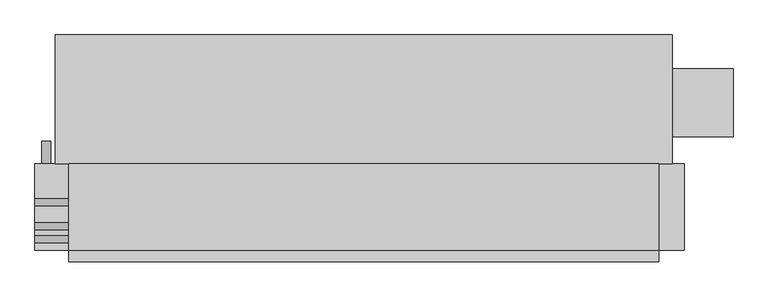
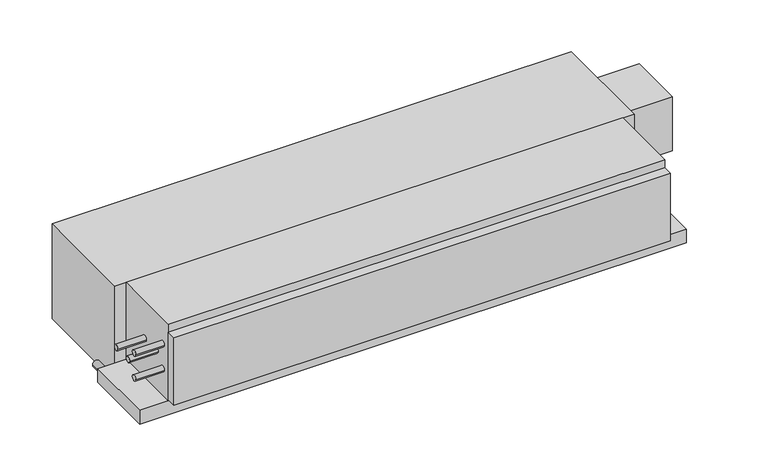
"""IFC4 building model written with IfcOpenShell, lengths in millimetres: proxy geometry, Concealed_Horizontal_Fan_Coil_Unit_With_Plenum_-_42CEA_-_CARRIER_-_4-Pipe_LH_2022 : Size 10 - 277v/60Hz/1Ph - 4/1 Coil."""

from ifc_helpers import new_model, si_unit, point, frame, frame_2d, origin, place, context, project, spatial, polyline, circle_curve, trimmed, segment, composite_curve, outline, extrude, source, transform, mapped, element, save


def mechanical_equipment_5f8825c9(model_context):
    return source(origin(), model_context, "Body", "SweptSolid", [
        extrude(outline(composite_curve([segment(trimmed(circle_curve(frame_2d((-241.3, -558.8)), 9.525), [point((-241.3, -568.325))], [point((-241.3, -549.275))], False, "CARTESIAN"), True, "CONTINUOUS"), segment(trimmed(circle_curve(frame_2d((-241.3, -558.8)), 9.525), [point((-241.3, -549.275))], [point((-241.3, -568.325))], False, "CARTESIAN"), True, "CONTINUOUS")], self_intersect=False)), frame((0.0, -141.2875, 0.0), z_axis=(0.0, 1.0, 0.0), x_axis=(0.0, 0.0, 1.0)), (0.0, 0.0, 1.0), 50.8),
        extrude(outline(composite_curve([segment(trimmed(circle_curve(frame_2d((-309.5625, -69.85)), 7.9375), [point((-301.625, -69.85))], [point((-317.5, -69.85))], False, "CARTESIAN"), True, "CONTINUOUS"), segment(trimmed(circle_curve(frame_2d((-309.5625, -69.85)), 7.9375), [point((-317.5, -69.85))], [point((-301.625, -69.85))], False, "CARTESIAN"), True, "CONTINUOUS")], self_intersect=False)), frame((-584.2, 0.0, 0.0), z_axis=(1.0, 0.0, 0.0), x_axis=(0.0, 1.0, 0.0)), (0.0, 0.0, 1.0), 76.2),
        extrude(outline(composite_curve([segment(trimmed(circle_curve(frame_2d((-309.5625, -139.7)), 7.9375), [point((-301.625, -139.7))], [point((-317.5, -139.7))], False, "CARTESIAN"), True, "CONTINUOUS"), segment(trimmed(circle_curve(frame_2d((-309.5625, -139.7)), 7.9375), [point((-317.5, -139.7))], [point((-301.625, -139.7))], False, "CARTESIAN"), True, "CONTINUOUS")], self_intersect=False)), frame((-584.2, 0.0, 0.0), z_axis=(1.0, 0.0, 0.0), x_axis=(0.0, 1.0, 0.0)), (0.0, 0.0, 1.0), 76.2),
        extrude(outline(composite_curve([segment(trimmed(circle_curve(frame_2d((-227.0125, -104.775)), 7.9375), [point((-219.075, -104.775))], [point((-234.95, -104.775))], False, "CARTESIAN"), True, "CONTINUOUS"), segment(trimmed(circle_curve(frame_2d((-227.0125, -104.775)), 7.9375), [point((-234.95, -104.775))], [point((-219.075, -104.775))], False, "CARTESIAN"), True, "CONTINUOUS")], self_intersect=False)), frame((-584.2, 0.0, 0.0), z_axis=(1.0, 0.0, 0.0), x_axis=(0.0, 1.0, 0.0)), (0.0, 0.0, 1.0), 76.2),
        extrude(outline(composite_curve([segment(trimmed(circle_curve(frame_2d((-280.9875, -104.775)), 7.9375), [point((-273.05, -104.775))], [point((-288.925, -104.775))], False, "CARTESIAN"), True, "CONTINUOUS"), segment(trimmed(circle_curve(frame_2d((-280.9875, -104.775)), 7.9375), [point((-288.925, -104.775))], [point((-273.05, -104.775))], False, "CARTESIAN"), True, "CONTINUOUS")], self_intersect=False)), frame((-584.2, 0.0, 0.0), z_axis=(1.0, 0.0, 0.0), x_axis=(0.0, 1.0, 0.0)), (0.0, 0.0, 1.0), 76.2),
        extrude(outline(polyline([(812.8, -334.9625), (812.8, -360.3625), (-508.0, -360.3625), (-508.0, -334.9625), (812.8, -334.9625)])), frame((0.0, 0.0, -212.725), z_axis=(0.0, 0.0, 1.0), x_axis=(1.0, 0.0, 0.0)), (0.0, 0.0, 1.0), 190.5),
        extrude(outline(polyline([(812.8, -334.9625), (-508.0, -334.9625), (-508.0, -141.2875), (812.8, -141.2875), (812.8, -334.9625)])), frame((0.0, 0.0, -215.9), z_axis=(0.0, 0.0, 1.0), x_axis=(1.0, 0.0, 0.0)), (0.0, 0.0, 1.0), 215.9),
        extrude(outline(polyline([(869.95, -141.2875), (869.95, -334.9625), (-584.2, -334.9625), (-584.2, -141.2875), (869.95, -141.2875)])), frame((0.0, 0.0, -254.0), z_axis=(0.0, 0.0, 1.0), x_axis=(1.0, 0.0, 0.0)), (0.0, 0.0, 1.0), 38.1),
        extrude(outline(polyline([(979.4875, 71.4375), (979.4875, -80.9625), (842.9625, -80.9625), (842.9625, 71.4375), (979.4875, 71.4375)])), frame((0.0, 0.0, -187.325), z_axis=(0.0, 0.0, 1.0), x_axis=(1.0, 0.0, 0.0)), (0.0, 0.0, 1.0), 152.4),
        extrude(outline(polyline([(-538.1625, 147.6375), (842.9625, 147.6375), (842.9625, -141.2875), (-538.1625, -141.2875), (-538.1625, 147.6375)])), frame((0.0, 0.0, -266.7), z_axis=(0.0, 0.0, 1.0), x_axis=(1.0, 0.0, 0.0)), (0.0, 0.0, 1.0), 266.7),
    ])


if __name__ == "__main__":
    model = new_model("IFC4")
    model_context = context("Model", 3, world=origin())
    ifc_project = project(units=[si_unit("LENGTHUNIT", "METRE", prefix="MILLI")], contexts=[model_context])
    site = spatial("IfcSite", under=ifc_project)
    building = spatial("IfcBuilding", under=site)
    placement = place(None, origin())
    mechanical_equipment_shape = mechanical_equipment_5f8825c9(model_context)
    element("IfcBuildingElementProxy", 1, Name="Concealed_Horizontal_Fan_Coil_Unit_With_Plenum_-_42CEA_-_CARRIER_-_4-Pipe_LH_2022 : Size 10 - 277v/60Hz/1Ph - 4/1 Coil", ObjectType="Concealed_Horizontal_Fan_Coil_Unit_With_Plenum_-_42CEA_-_CARRIER_-_4-Pipe_LH_2022 : Size 10 - 277v/60Hz/1Ph - 4/1 Coil", at=placement, inside=building, context=model_context, shape_type="MappedRepresentation", body=[
        mapped(mechanical_equipment_shape, transform((0.0, 0.0, 0.0), x_axis=(1.0, 0.0, 0.0), y_axis=(0.0, 1.0, 0.0), z_axis=(0.0, 0.0, 1.0))),
    ])
    save(model, "model.ifc")
